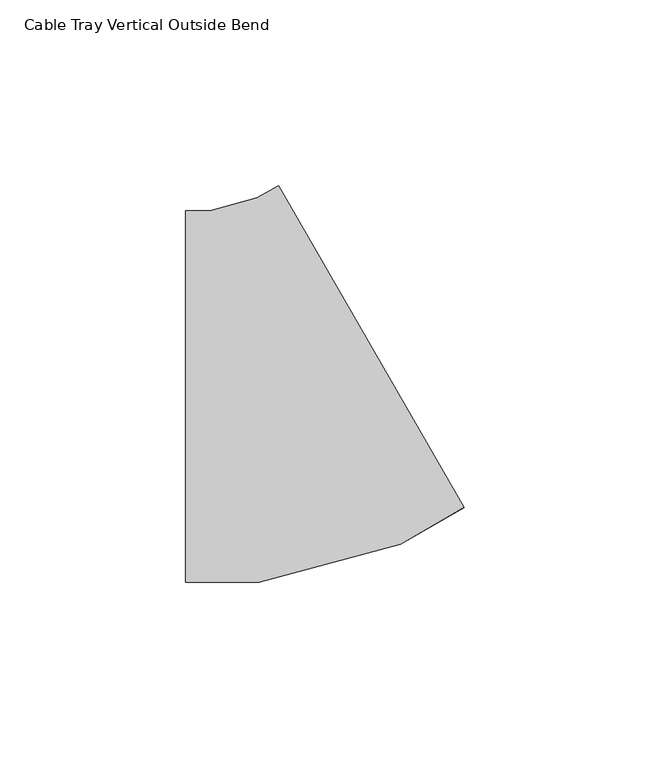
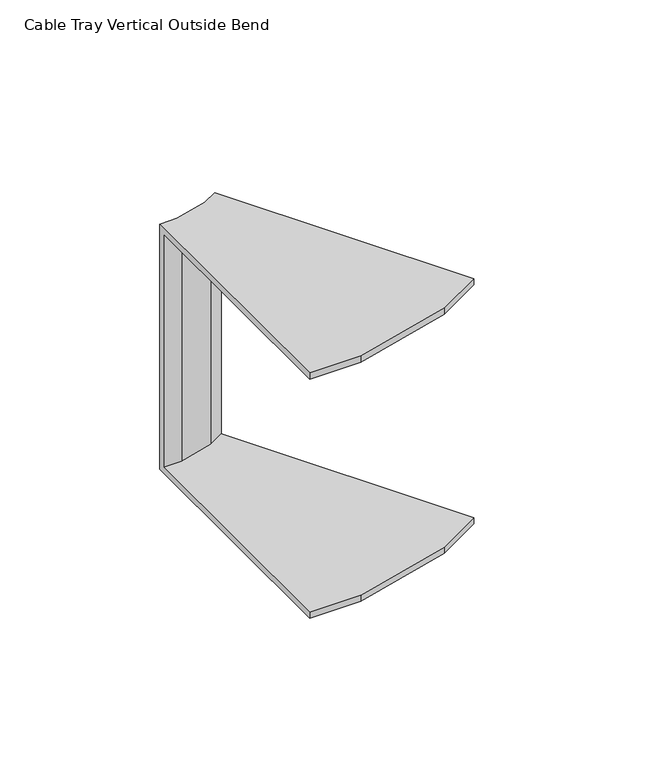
"""IFC4 building model written with IfcOpenShell, lengths in millimetres: cable carrier fitting geometry, Cable Tray Vertical Outside Bend : ELEC_ELV_TKG_N2402."""

from ifc_helpers import new_model, si_unit, origin, place, context, project, spatial, faceted_brep, source, transform, mapped, element, save


def cable_tray_vertical_outside_bend_f33e1a20(model_context):
    return source(origin(), model_context, "Body", "Brep", [
        faceted_brep([(-26.7995596, -50.0, 50.0), (-26.7995596, 50.0, 50.0), (-26.7995596, 50.0, -50.0), (-26.7995596, -50.0, -50.0), (-26.7995596, -50.0, -47.46), (-26.7995596, 47.46, -47.46), (-26.7995596, 47.46, 47.46), (-26.7995596, -50.0, 47.46), (48.2116884, -29.8973159, 50.0), (48.2116884, -29.8973159, 47.46), (-0.5256198, 54.5013002, 47.46), (-0.5256198, 54.5013002, -47.46), (48.2116884, -29.8973159, -47.46), (48.2116884, -29.8973159, -50.0), (-1.7958103, 56.7008947, -50.0), (-1.7958103, 56.7008947, 50.0), (-7.0483816, -50.0, 50.0), (31.1075216, -39.774386, 50.0), (-7.4971992, 53.408538, 50.0), (-20.2158336, 50.0, 50.0), (-20.2158336, 50.0, -50.0), (-7.4971992, 53.408538, -50.0), (31.1075216, -39.774386, -50.0), (-7.0483816, -50.0, -50.0), (-7.0483816, -50.0, -47.46), (31.1075216, -39.774386, -47.46), (-6.5166393, 51.0416917, -47.46), (-19.8813803, 47.46, -47.46), (-19.8813803, 47.46, 47.46), (-6.5166393, 51.0416917, 47.46), (31.1075216, -39.774386, 47.46), (-7.0483816, -50.0, 47.46)], [[[0, 1, 2, 3, 4, 5, 6, 7]], [[8, 9, 10, 11, 12, 13, 14, 15]], [[1, 0, 16, 17, 8, 15, 18, 19]], [[2, 1, 19, 20]], [[3, 2, 20, 21, 14, 13, 22, 23]], [[4, 3, 23, 24]], [[5, 4, 24, 25, 12, 11, 26, 27]], [[6, 5, 27, 28]], [[7, 6, 28, 29, 10, 9, 30, 31]], [[0, 7, 31, 16]], [[20, 19, 18, 21]], [[24, 23, 22, 25]], [[28, 27, 26, 29]], [[16, 31, 30, 17]], [[21, 18, 15, 14]], [[25, 22, 13, 12]], [[29, 26, 11, 10]], [[17, 30, 9, 8]]]),
    ])


if __name__ == "__main__":
    model = new_model("IFC4")
    model_context = context("Model", 3, world=origin())
    ifc_project = project(units=[si_unit("LENGTHUNIT", "METRE", prefix="MILLI")], contexts=[model_context])
    site = spatial("IfcSite", under=ifc_project)
    building = spatial("IfcBuilding", under=site)
    placement = place(None, origin())
    cable_tray_vertical_outside_bend_shape = cable_tray_vertical_outside_bend_f33e1a20(model_context)
    element("IfcCableCarrierFitting", 1, ObjectType="Cable Tray Vertical Outside Bend : ELEC_ELV_TKG_N2402", at=placement, inside=building, context=model_context, shape_type="MappedRepresentation", body=[
        mapped(cable_tray_vertical_outside_bend_shape, transform((0.0, 0.0, 0.0), x_axis=(1.0, 0.0, 0.0), y_axis=(0.0, 1.0, 0.0), z_axis=(0.0, 0.0, 1.0))),
    ])
    save(model, "model.ifc")
